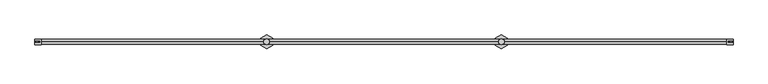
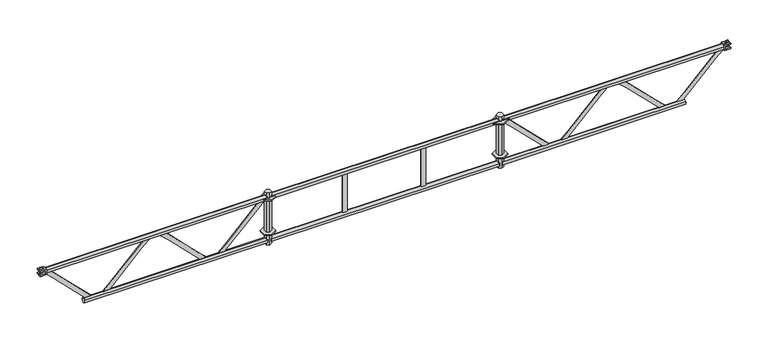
"""IFC4 building model written with IfcOpenShell, lengths in millimetres: proxy geometry, アルバトロスAK3スパンはりわく_軽 : アルバトロスAK3スパンはりわく_軽."""

from ifc_helpers import new_model, si_unit, point, frame, frame_2d, origin, place, context, project, spatial, polyline, circle_curve, trimmed, segment, composite_curve, outline, extrude, faceted_brep, source, transform, mapped, element, save


def generic_models_e28a5294(model_context):
    return source(origin(), model_context, "Body", "SolidModel", [
        extrude(outline(polyline([(1889.3993464, -26.5), (1843.5, -53.0), (1797.6006536, -26.5), (1797.6006536, 26.5), (1843.5, 53.0), (1889.3993464, 26.5), (1889.3993464, -26.5)])), frame((0.0, 0.0, -4.0), z_axis=(0.0, 0.0, 1.0), x_axis=(1.0, 0.0, 0.0)), (0.0, 0.0, 1.0), 8.0),
        extrude(outline(polyline([(1889.3993464, -26.5), (1843.5, -53.0), (1797.6006536, -26.5), (1797.6006536, 26.5), (1843.5, 53.0), (1889.3993464, 26.5), (1889.3993464, -26.5)])), frame((0.0, 0.0, -284.0), z_axis=(0.0, 0.0, 1.0), x_axis=(1.0, 0.0, 0.0)), (0.0, 0.0, 1.0), 8.0),
        extrude(outline(polyline([(3689.3993464, -26.5), (3643.5, -53.0), (3597.6006536, -26.5), (3597.6006536, 26.5), (3643.5, 53.0), (3689.3993464, 26.5), (3689.3993464, -26.5)])), frame((0.0, 0.0, -284.0), z_axis=(0.0, 0.0, 1.0), x_axis=(1.0, 0.0, 0.0)), (0.0, 0.0, 1.0), 8.0),
        extrude(outline(polyline([(3689.3993464, -26.5), (3643.5, -53.0), (3597.6006536, -26.5), (3597.6006536, 26.5), (3643.5, 53.0), (3689.3993464, 26.5), (3689.3993464, -26.5)])), frame((0.0, 0.0, -4.0), z_axis=(0.0, 0.0, 1.0), x_axis=(1.0, 0.0, 0.0)), (0.0, 0.0, 1.0), 8.0),
        faceted_brep([(3664.5444173, -12.15, 45.0), (3664.5444173, 12.15, 45.0), (3643.5, 24.3, 45.0), (3622.4555827, 12.15, 45.0), (3622.4555827, -12.15, 45.0), (3643.5, -24.3, 45.0), (3664.5444173, -12.15, -380.0), (3643.5, -24.3, -380.0), (3622.4555827, -12.15, -380.0), (3622.4555827, 12.15, -380.0), (3643.5, 24.3, -380.0), (3664.5444173, 12.15, -380.0), (3659.8, -14.8891906, 11.4465), (3659.8, 14.8891906, 11.4465), (3664.5444173, 12.15, 17.3197921), (3664.5444173, -12.15, 17.3197921), (3659.8, -14.8891906, -11.4465), (3659.8, 14.8891906, -11.4465), (3664.5444173, -12.15, -17.3197921), (3664.5444173, 12.15, -17.3197921), (3627.2, -14.8891906, -11.4465), (3627.2, 14.8891906, -11.4465), (3622.4555827, 12.15, -17.3197921), (3622.4555827, -12.15, -17.3197921), (3627.2, -14.8891906, 11.4465), (3627.2, 14.8891906, 11.4465), (3622.4555827, -12.15, 17.3197921), (3622.4555827, 12.15, 17.3197921), (3659.8, -14.8891906, -338.5535), (3659.8, 14.8891906, -338.5535), (3664.5444173, 12.15, -332.6802079), (3664.5444173, -12.15, -332.6802079), (3659.8, -14.8891906, -361.4465), (3659.8, 14.8891906, -361.4465), (3664.5444173, -12.15, -367.3197921), (3664.5444173, 12.15, -367.3197921), (3627.2, -14.8891906, -361.4465), (3627.2, 14.8891906, -361.4465), (3622.4555827, 12.15, -367.3197921), (3622.4555827, -12.15, -367.3197921), (3627.2, -14.8891906, -338.5535), (3627.2, 14.8891906, -338.5535), (3622.4555827, -12.15, -332.6802079), (3622.4555827, 12.15, -332.6802079)], [[[0, 1, 2, 3, 4, 5]], [[6, 7, 8, 9, 10, 11]], [[12, 13, 14, 15]], [[13, 12, 16, 17]], [[17, 16, 18, 19]], [[20, 21, 22, 23]], [[21, 20, 24, 25]], [[25, 24, 26, 27]], [[28, 29, 30, 31]], [[29, 28, 32, 33]], [[33, 32, 34, 35]], [[36, 37, 38, 39]], [[37, 36, 40, 41]], [[41, 40, 42, 43]], [[1, 0, 15, 14]], [[6, 11, 35, 34]], [[18, 31, 30, 19]], [[2, 1, 14, 13, 17, 19, 30, 29, 33, 35, 11, 10]], [[3, 2, 10, 9, 38, 37, 41, 43, 22, 21, 25, 27]], [[4, 3, 27, 26]], [[9, 8, 39, 38]], [[22, 43, 42, 23]], [[5, 4, 26, 24, 20, 23, 42, 40, 36, 39, 8, 7]], [[0, 5, 7, 6, 34, 32, 28, 31, 18, 16, 12, 15]]]),
        faceted_brep([(1864.5444173, -12.15, 45.0), (1864.5444173, 12.15, 45.0), (1843.5, 24.3, 45.0), (1822.4555827, 12.15, 45.0), (1822.4555827, -12.15, 45.0), (1843.5, -24.3, 45.0), (1864.5444173, -12.15, -380.0), (1843.5, -24.3, -380.0), (1822.4555827, -12.15, -380.0), (1822.4555827, 12.15, -380.0), (1843.5, 24.3, -380.0), (1864.5444173, 12.15, -380.0), (1859.8, -14.8891906, 11.4465), (1859.8, 14.8891906, 11.4465), (1864.5444173, 12.15, 17.3197921), (1864.5444173, -12.15, 17.3197921), (1859.8, -14.8891906, -11.4465), (1859.8, 14.8891906, -11.4465), (1864.5444173, -12.15, -17.3197921), (1864.5444173, 12.15, -17.3197921), (1827.2, -14.8891906, -11.4465), (1827.2, 14.8891906, -11.4465), (1822.4555827, 12.15, -17.3197921), (1822.4555827, -12.15, -17.3197921), (1827.2, -14.8891906, 11.4465), (1827.2, 14.8891906, 11.4465), (1822.4555827, -12.15, 17.3197921), (1822.4555827, 12.15, 17.3197921), (1859.8, -14.8891906, -338.5535), (1859.8, 14.8891906, -338.5535), (1864.5444173, 12.15, -332.6802079), (1864.5444173, -12.15, -332.6802079), (1859.8, -14.8891906, -361.4465), (1859.8, 14.8891906, -361.4465), (1864.5444173, -12.15, -367.3197921), (1864.5444173, 12.15, -367.3197921), (1827.2, -14.8891906, -361.4465), (1827.2, 14.8891906, -361.4465), (1822.4555827, 12.15, -367.3197921), (1822.4555827, -12.15, -367.3197921), (1827.2, -14.8891906, -338.5535), (1827.2, 14.8891906, -338.5535), (1822.4555827, -12.15, -332.6802079), (1822.4555827, 12.15, -332.6802079)], [[[0, 1, 2, 3, 4, 5]], [[6, 7, 8, 9, 10, 11]], [[12, 13, 14, 15]], [[13, 12, 16, 17]], [[17, 16, 18, 19]], [[20, 21, 22, 23]], [[21, 20, 24, 25]], [[25, 24, 26, 27]], [[28, 29, 30, 31]], [[29, 28, 32, 33]], [[33, 32, 34, 35]], [[36, 37, 38, 39]], [[37, 36, 40, 41]], [[41, 40, 42, 43]], [[1, 0, 15, 14]], [[6, 11, 35, 34]], [[18, 31, 30, 19]], [[2, 1, 14, 13, 17, 19, 30, 29, 33, 35, 11, 10]], [[3, 2, 10, 9, 38, 37, 41, 43, 22, 21, 25, 27]], [[4, 3, 27, 26]], [[9, 8, 39, 38]], [[22, 43, 42, 23]], [[5, 4, 26, 24, 20, 23, 42, 40, 36, 39, 8, 7]], [[0, 5, 7, 6, 34, 32, 28, 31, 18, 16, 12, 15]]]),
        faceted_brep([(64.5592, 21.5, -12.0), (106.7817611, 21.5, -12.0), (106.7817611, 21.5, 12.0), (64.5592, 21.5, 12.0), (64.5592, 21.5, 21.5), (115.0, 21.5, 21.5), (115.0, 21.5, -21.5), (64.5592, 21.5, -21.5), (64.5592, -21.5, -12.0), (64.5592, -21.5, -21.5), (115.0, -21.5, -21.5), (115.0, -21.5, 21.5), (64.5592, -21.5, 21.5), (64.5592, -21.5, 12.0), (106.7817611, -21.5, 12.0), (106.7817611, -21.5, -12.0), (93.3, -4.25, -12.0), (69.0935462, -4.25, -12.0), (69.0935462, 4.25, -12.0), (93.3, 4.25, -12.0), (69.0935462, -4.25, 12.0), (100.3, -4.25, 12.0), (100.3, 4.25, 12.0), (69.0935462, 4.25, 12.0), (100.3, -4.25, 21.5), (69.0935462, -4.25, 21.5), (69.0935462, 4.25, 21.5), (100.3, 4.25, 21.5), (69.0935462, -4.25, -21.5), (93.3, -4.25, -21.5), (93.3, 4.25, -21.5), (69.0935462, 4.25, -21.5)], [[[0, 1, 2, 3, 4, 5, 6, 7]], [[8, 9, 10, 11, 12, 13, 14, 15]], [[1, 0, 8, 15], [16, 17, 18, 19]], [[3, 2, 14, 13], [20, 21, 22, 23]], [[4, 3, 13, 12]], [[5, 4, 12, 11], [24, 25, 26, 27]], [[7, 6, 10, 9], [28, 29, 30, 31]], [[0, 7, 9, 8]], [[20, 25, 24, 21]], [[21, 24, 27, 22]], [[22, 27, 26, 23]], [[25, 20, 23, 26]], [[28, 17, 16, 29]], [[29, 16, 19, 30]], [[30, 19, 18, 31]], [[17, 28, 31, 18]], [[2, 1, 15, 14]], [[6, 5, 11, 10]]]),
        extrude(outline(polyline([(73.3, 4.0), (87.1907349, 4.0), (87.1907349, -4.0), (73.3, -4.0), (73.3, 4.0)])), frame((0.0, 0.0, -36.75), z_axis=(0.0, 0.0, 1.0), x_axis=(1.0, 0.0, 0.0)), (0.0, 0.0, 1.0), 73.5),
        faceted_brep([(5422.4408, -21.5, -12.0), (5380.2182389, -21.5, -12.0), (5380.2182389, -21.5, 12.0), (5422.4408, -21.5, 12.0), (5422.4408, -21.5, 21.5), (5372.0, -21.5, 21.5), (5372.0, -21.5, -21.5), (5422.4408, -21.5, -21.5), (5422.4408, 21.5, -12.0), (5422.4408, 21.5, -21.5), (5372.0, 21.5, -21.5), (5372.0, 21.5, 21.5), (5422.4408, 21.5, 21.5), (5422.4408, 21.5, 12.0), (5380.2182389, 21.5, 12.0), (5380.2182389, 21.5, -12.0), (5393.7, 4.25, -12.0), (5417.9064538, 4.25, -12.0), (5417.9064538, -4.25, -12.0), (5393.7, -4.25, -12.0), (5417.9064538, 4.25, 12.0), (5386.7, 4.25, 12.0), (5386.7, -4.25, 12.0), (5417.9064538, -4.25, 12.0), (5386.7, 4.25, 21.5), (5417.9064538, 4.25, 21.5), (5417.9064538, -4.25, 21.5), (5386.7, -4.25, 21.5), (5417.9064538, 4.25, -21.5), (5393.7, 4.25, -21.5), (5393.7, -4.25, -21.5), (5417.9064538, -4.25, -21.5)], [[[0, 1, 2, 3, 4, 5, 6, 7]], [[8, 9, 10, 11, 12, 13, 14, 15]], [[1, 0, 8, 15], [16, 17, 18, 19]], [[3, 2, 14, 13], [20, 21, 22, 23]], [[4, 3, 13, 12]], [[5, 4, 12, 11], [24, 25, 26, 27]], [[7, 6, 10, 9], [28, 29, 30, 31]], [[0, 7, 9, 8]], [[20, 25, 24, 21]], [[21, 24, 27, 22]], [[22, 27, 26, 23]], [[25, 20, 23, 26]], [[28, 17, 16, 29]], [[29, 16, 19, 30]], [[30, 19, 18, 31]], [[17, 28, 31, 18]], [[2, 1, 15, 14]], [[6, 5, 11, 10]]]),
        extrude(outline(polyline([(5413.7, -4.0), (5399.8092651, -4.0), (5399.8092651, 4.0), (5413.7, 4.0), (5413.7, -4.0)])), frame((0.0, 0.0, -36.75), z_axis=(0.0, 0.0, 1.0), x_axis=(1.0, 0.0, 0.0)), (0.0, 0.0, 1.0), 73.5),
        extrude(outline(polyline([(18.4896424, -10.675), (0.0, -21.35), (-18.4896424, -10.675), (-18.4896424, 10.675), (0.0, 21.35), (18.4896424, 10.675), (18.4896424, -10.675)])), frame((115.0, 0.0, 0.0), z_axis=(1.0, 0.0, 0.0), x_axis=(0.0, 1.0, 0.0)), (0.0, 0.0, 1.0), 1728.5),
        extrude(outline(polyline([(18.4896424, -360.675), (0.0, -371.35), (-18.4896424, -360.675), (-18.4896424, -339.325), (0.0, -328.65), (18.4896424, -339.325), (18.4896424, -360.675)])), frame((3630.8, 0.0, 0.0), z_axis=(1.0, 0.0, 0.0), x_axis=(0.0, 1.0, 0.0)), (0.0, 0.0, 1.0), 1444.1999316),
        extrude(outline(polyline([(18.4896424, -360.675), (0.0, -371.35), (-18.4896424, -360.675), (-18.4896424, -339.325), (0.0, -328.65), (18.4896424, -339.325), (18.4896424, -360.675)])), frame((412.0000684, 0.0, 0.0), z_axis=(1.0, 0.0, 0.0), x_axis=(0.0, 1.0, 0.0)), (0.0, 0.0, 1.0), 1444.1999316),
        extrude(outline(composite_curve([segment(trimmed(circle_curve(frame_2d((-645.2601599, -400.1353082)), 804.3367), [point((-27.527903, 115.0))], [point((-76.508225, 168.6166268))], True, "CARTESIAN"), True, "CONTINUOUS"), segment(polyline([(-76.508225, 168.6166268), (-329.8916666, 422.0000684), (-349.9499805, 422.0000684), (-349.9499805, 467.0000701), (-326.8084936, 467.0000701), (-19.8084769, 160.0000535), (0.0, 160.0000535), (0.0, 115.0), (-27.527903, 115.0)]), True, "CONTINUOUS")], self_intersect=False)), frame((0.0, -2.5, 0.0), z_axis=(0.0, 1.0, 0.0), x_axis=(0.0, 0.0, 1.0)), (0.0, 0.0, 1.0), 5.0),
        faceted_brep([(5372.0, 18.4896424, -10.675), (5372.0, 18.4896424, 10.675), (5372.0, 0.0, 21.35), (5372.0, -18.4896424, 10.675), (5372.0, -18.4896424, -10.675), (5372.0, 0.0, -21.35), (3630.8, 18.4896424, -10.675), (3630.8, 0.0, -21.35), (3630.8, -18.4896424, -10.675), (3630.8, -18.4896424, 10.675), (3630.8, 0.0, 21.35), (3630.8, 18.4896424, 10.675), (3706.8, 18.4896424, 4.5), (3706.8, -18.4896424, 4.5), (3667.3, -18.4896424, 4.5), (3667.3, 18.4896424, 4.5), (3667.3, 18.4896424, -4.5), (3667.3, -18.4896424, -4.5), (3706.8, -18.4896424, -4.5), (3706.8, 18.4896424, -4.5)], [[[0, 1, 2, 3, 4, 5]], [[6, 7, 8, 9, 10, 11]], [[12, 13, 14, 15]], [[16, 17, 18, 19]], [[17, 16, 15, 14]], [[1, 0, 6, 11], [12, 15, 16, 19]], [[2, 1, 11, 10]], [[3, 2, 10, 9]], [[4, 3, 9, 8], [14, 13, 18, 17]], [[5, 4, 8, 7]], [[0, 5, 7, 6]], [[13, 12, 19, 18]]]),
        extrude(outline(composite_curve([segment(polyline([(-27.5279088, 917.3000493), (-5.8e-06, 917.3000493), (-5.8e-06, 872.2999958), (-19.8083913, 872.2999958), (-273.1917712, 618.9166159)]), True, "CONTINUOUS"), segment(trimmed(circle_curve(frame_2d((295.5601637, 50.164681)), 804.3367), [point((-273.1917712, 618.9166159))], [point((-322.1721015, 565.2999792))], True, "CARTESIAN"), True, "CONTINUOUS"), segment(polyline([(-322.1721015, 565.2999792), (-349.9499863, 565.2999792), (-349.9499863, 610.299981), (-329.8916724, 610.299981), (-76.5082308, 863.6834226)]), True, "CONTINUOUS"), segment(trimmed(circle_curve(frame_2d((-645.2601657, 1432.4353575)), 804.3367), [point((-76.5082308, 863.6834226))], [point((-27.5279088, 917.3000493))], True, "CARTESIAN"), True, "CONTINUOUS")], self_intersect=False)), frame((0.0, -2.5, 0.0), z_axis=(0.0, 1.0, 0.0), x_axis=(0.0, 0.0, 1.0)), (0.0, 0.0, 1.0), 5.0),
        extrude(outline(composite_curve([segment(trimmed(circle_curve(frame_2d((-645.2601599, 493.0645989)), 804.3367), [point((-27.527903, 1008.1999071))], [point((-76.508225, 1061.8165339))], True, "CARTESIAN"), True, "CONTINUOUS"), segment(polyline([(-76.508225, 1061.8165339), (-329.8916666, 1315.1999755), (-349.9499805, 1315.1999755), (-349.9499805, 1360.1999772), (-322.1720957, 1360.1999772)]), True, "CONTINUOUS"), segment(trimmed(circle_curve(frame_2d((295.5601695, 1875.3352755)), 804.3367), [point((-322.1720957, 1360.1999772))], [point((-273.1917655, 1306.5833405))], True, "CARTESIAN"), True, "CONTINUOUS"), segment(polyline([(-273.1917655, 1306.5833405), (-19.8083855, 1053.1999606), (0.0, 1053.1999606), (0.0, 1008.1999071), (-27.527903, 1008.1999071)]), True, "CONTINUOUS")], self_intersect=False)), frame((0.0, -2.5, 0.0), z_axis=(0.0, 1.0, 0.0), x_axis=(0.0, 0.0, 1.0)), (0.0, 0.0, 1.0), 5.0),
        extrude(outline(composite_curve([segment(polyline([(-27.5279088, 1810.4999564), (-5.8e-06, 1810.4999564), (-5.8e-06, 1765.4999029), (-19.8083913, 1765.4999029), (-273.1917712, 1512.116523)]), True, "CONTINUOUS"), segment(trimmed(circle_curve(frame_2d((295.5601637, 943.3645881)), 804.3367), [point((-273.1917712, 1512.116523))], [point((-322.1721015, 1458.4998863))], True, "CARTESIAN"), True, "CONTINUOUS"), segment(polyline([(-322.1721015, 1458.4998863), (-349.9499863, 1458.4998863), (-349.9499863, 1503.4998881), (-329.8916724, 1503.4998881), (-76.5082308, 1756.8833297)]), True, "CONTINUOUS"), segment(trimmed(circle_curve(frame_2d((-645.2601657, 2325.6352646)), 804.3367), [point((-76.5082308, 1756.8833297))], [point((-27.5279088, 1810.4999564))], True, "CARTESIAN"), True, "CONTINUOUS")], self_intersect=False)), frame((0.0, -2.5, 0.0), z_axis=(0.0, 1.0, 0.0), x_axis=(0.0, 0.0, 1.0)), (0.0, 0.0, 1.0), 5.0),
        extrude(outline(composite_curve([segment(polyline([(-27.5279088, 4472.0), (-5.8e-06, 4472.0), (-5.8e-06, 4426.9999465), (-19.8083913, 4426.9999465), (-273.1917712, 4173.6165666)]), True, "CONTINUOUS"), segment(trimmed(circle_curve(frame_2d((295.5601637, 3604.8646316)), 804.3367), [point((-273.1917712, 4173.6165666))], [point((-322.1721015, 4119.9999299))], True, "CARTESIAN"), True, "CONTINUOUS"), segment(polyline([(-322.1721015, 4119.9999299), (-349.9499863, 4119.9999299), (-349.9499863, 4164.9999316), (-329.8916724, 4164.9999316), (-76.5082308, 4418.3833732)]), True, "CONTINUOUS"), segment(trimmed(circle_curve(frame_2d((-645.2601657, 4987.1353082)), 804.3367), [point((-76.5082308, 4418.3833732))], [point((-27.5279088, 4472.0))], True, "CARTESIAN"), True, "CONTINUOUS")], self_intersect=False)), frame((0.0, -2.5, 0.0), z_axis=(0.0, 1.0, 0.0), x_axis=(0.0, 0.0, 1.0)), (0.0, 0.0, 1.0), 5.0),
        extrude(outline(composite_curve([segment(trimmed(circle_curve(frame_2d((-645.2601599, 4054.5646425)), 804.3367), [point((-27.527903, 4569.6999507))], [point((-76.508225, 4623.3165774))], True, "CARTESIAN"), True, "CONTINUOUS"), segment(polyline([(-76.508225, 4623.3165774), (-329.8916666, 4876.700019), (-349.9499805, 4876.700019), (-349.9499805, 4921.7000208), (-322.1720957, 4921.7000208)]), True, "CONTINUOUS"), segment(trimmed(circle_curve(frame_2d((295.5601695, 5436.835319)), 804.3367), [point((-322.1720957, 4921.7000208))], [point((-273.1917655, 4868.0833841))], True, "CARTESIAN"), True, "CONTINUOUS"), segment(polyline([(-273.1917655, 4868.0833841), (-19.8083855, 4614.7000042), (0.0, 4614.7000042), (0.0, 4569.6999507), (-27.527903, 4569.6999507)]), True, "CONTINUOUS")], self_intersect=False)), frame((0.0, -2.5, 0.0), z_axis=(0.0, 1.0, 0.0), x_axis=(0.0, 0.0, 1.0)), (0.0, 0.0, 1.0), 5.0),
        extrude(outline(composite_curve([segment(polyline([(-27.5279088, 5372.0), (-5.8e-06, 5372.0), (-5.8e-06, 5326.9999465), (-19.8083913, 5326.9999465), (-273.1917712, 5073.6165666)]), True, "CONTINUOUS"), segment(trimmed(circle_curve(frame_2d((295.5601637, 4504.8646316)), 804.3367), [point((-273.1917712, 5073.6165666))], [point((-322.1721015, 5019.9999299))], True, "CARTESIAN"), True, "CONTINUOUS"), segment(polyline([(-322.1721015, 5019.9999299), (-349.9499863, 5019.9999299), (-349.9499863, 5064.9999316), (-329.8916724, 5064.9999316), (-76.5082308, 5318.3833732)]), True, "CONTINUOUS"), segment(trimmed(circle_curve(frame_2d((-645.2601657, 5887.1353082)), 804.3367), [point((-76.5082308, 5318.3833732))], [point((-27.5279088, 5372.0))], True, "CARTESIAN"), True, "CONTINUOUS")], self_intersect=False)), frame((0.0, -2.5, 0.0), z_axis=(0.0, 1.0, 0.0), x_axis=(0.0, 0.0, 1.0)), (0.0, 0.0, 1.0), 5.0),
        extrude(outline(polyline([(18.4896424, -360.675), (0.0, -371.35), (-18.4896424, -360.675), (-18.4896424, -339.325), (0.0, -328.65), (18.4896424, -339.325), (18.4896424, -360.675)])), frame((1845.3, 0.0, 0.0), z_axis=(1.0, 0.0, 0.0), x_axis=(0.0, 1.0, 0.0)), (0.0, 0.0, 1.0), 1796.4),
        faceted_brep([(3641.6999999, 18.4896424, -10.675), (3641.6999999, 18.4896424, 10.675), (3641.6999999, 0.0, 21.35), (3641.6999999, -18.4896424, 10.675), (3641.6999999, -18.4896424, -10.675), (3641.6999999, 0.0, -21.35), (1845.3, 18.4896424, -10.675), (1845.3, 0.0, -21.35), (1845.3, -18.4896424, -10.675), (1845.3, -18.4896424, 10.675), (1845.3, 0.0, 21.35), (1845.3, 18.4896424, 10.675), (3619.7, 18.4896424, 4.5), (3619.7, -18.4896424, 4.5), (3580.2, -18.4896424, 4.5), (3580.2, 18.4896424, 4.5), (3580.2, 18.4896424, -4.5), (3580.2, -18.4896424, -4.5), (3619.7, -18.4896424, -4.5), (3619.7, 18.4896424, -4.5)], [[[0, 1, 2, 3, 4, 5]], [[6, 7, 8, 9, 10, 11]], [[12, 13, 14, 15]], [[16, 17, 18, 19]], [[13, 12, 19, 18]], [[1, 0, 6, 11], [12, 15, 16, 19]], [[2, 1, 11, 10]], [[3, 2, 10, 9]], [[4, 3, 9, 8], [14, 13, 18, 17]], [[5, 4, 8, 7]], [[0, 5, 7, 6]], [[17, 16, 15, 14]]]),
        extrude(outline(polyline([(2456.0, -5.0), (2422.0, -5.0), (2422.0, 5.0), (2456.0, 5.0), (2456.0, -5.0)])), frame((0.0, 0.0, -350.0), z_axis=(0.0, 0.0, 1.0), x_axis=(1.0, 0.0, 0.0)), (0.0, 0.0, 1.0), 350.0),
        extrude(outline(polyline([(3065.0, -5.0), (3031.0, -5.0), (3031.0, 5.0), (3065.0, 5.0), (3065.0, -5.0)])), frame((0.0, 0.0, -360.6301345), z_axis=(0.0, 0.0, 1.0), x_axis=(1.0, 0.0, 0.0)), (0.0, 0.0, 1.0), 350.0),
        extrude(outline(composite_curve([segment(trimmed(circle_curve(frame_2d((-645.2601599, 3154.5646425)), 804.3367), [point((-27.527903, 3669.6999507))], [point((-76.508225, 3723.3165774))], True, "CARTESIAN"), True, "CONTINUOUS"), segment(polyline([(-76.508225, 3723.3165774), (-329.8916666, 3976.700019), (-349.9499805, 3976.700019), (-349.9499805, 4021.7000208), (-322.1720957, 4021.7000208)]), True, "CONTINUOUS"), segment(trimmed(circle_curve(frame_2d((295.5601695, 4536.835319)), 804.3367), [point((-322.1720957, 4021.7000208))], [point((-273.1917655, 3968.0833841))], True, "CARTESIAN"), True, "CONTINUOUS"), segment(polyline([(-273.1917655, 3968.0833841), (-19.8083855, 3714.7000042), (0.0, 3714.7000042), (0.0, 3669.6999507), (-27.527903, 3669.6999507)]), True, "CONTINUOUS")], self_intersect=False)), frame((0.0, -2.5, 0.0), z_axis=(0.0, 1.0, 0.0), x_axis=(0.0, 0.0, 1.0)), (0.0, 0.0, 1.0), 5.0),
    ])


if __name__ == "__main__":
    model = new_model("IFC4")
    model_context = context("Model", 3, world=origin())
    ifc_project = project(units=[si_unit("LENGTHUNIT", "METRE", prefix="MILLI")], contexts=[model_context])
    site = spatial("IfcSite", under=ifc_project)
    building = spatial("IfcBuilding", under=site)
    placement = place(None, origin())
    generic_models_shape = generic_models_e28a5294(model_context)
    element("IfcBuildingElementProxy", 1, Name="アルバトロスAK3スパンはりわく_軽 : アルバトロスAK3スパンはりわく_軽", ObjectType="アルバトロスAK3スパンはりわく_軽 : アルバトロスAK3スパンはりわく_軽", at=placement, inside=building, context=model_context, shape_type="MappedRepresentation", body=[
        mapped(generic_models_shape, transform((0.0, 0.0, 0.0), x_axis=(1.0, 0.0, 0.0), y_axis=(0.0, 1.0, 0.0), z_axis=(0.0, 0.0, 1.0))),
    ])
    save(model, "model.ifc")
